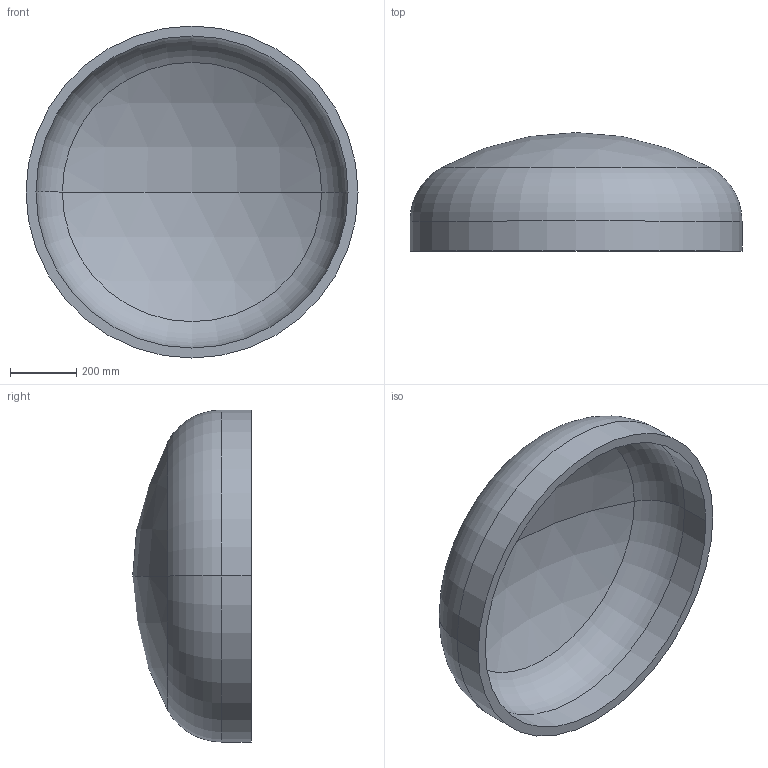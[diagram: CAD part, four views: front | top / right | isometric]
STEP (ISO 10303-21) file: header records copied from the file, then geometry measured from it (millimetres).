
FILE_DESCRIPTION (( 'STEP AP203' ), '1' );
FILE_NAME ('DIN 28013 Korbbogenform_-_Boden DIN 28013 - 1000 x 90 - I - s=30.step', '2016-07-01T08:46:31', ( '' ), ( '' ), 'SwSTEP 2.0', 'SolidWorks 2013', '' );
FILE_SCHEMA (( 'CONFIG_CONTROL_DESIGN' ));
Length unit declared in the file: millimetre
Products named in the file (1): DIN 28013 Korbbogenform_-_Boden DIN 28013 - 1000 x 90 - I - s=30
Bounding box: 1000 x 357.15 x 1000 mm (x, y, z)
Volume: 39647490.5 mm3; surface area: 2736470.6 mm2
Topology: 1 solids, 1 shells, 13 faces, 24 edges, 14 vertices
Faces by surface type: torus 4, cylinder 4, sphere 4, plane 1
Entity records: 407 total; most frequent: DIRECTION 72, CARTESIAN_POINT 52, ORIENTED_EDGE 48, AXIS2_PLACEMENT_3D 34, EDGE_CURVE 24, CIRCLE 20, EDGE_LOOP 14, VERTEX_POINT 14
